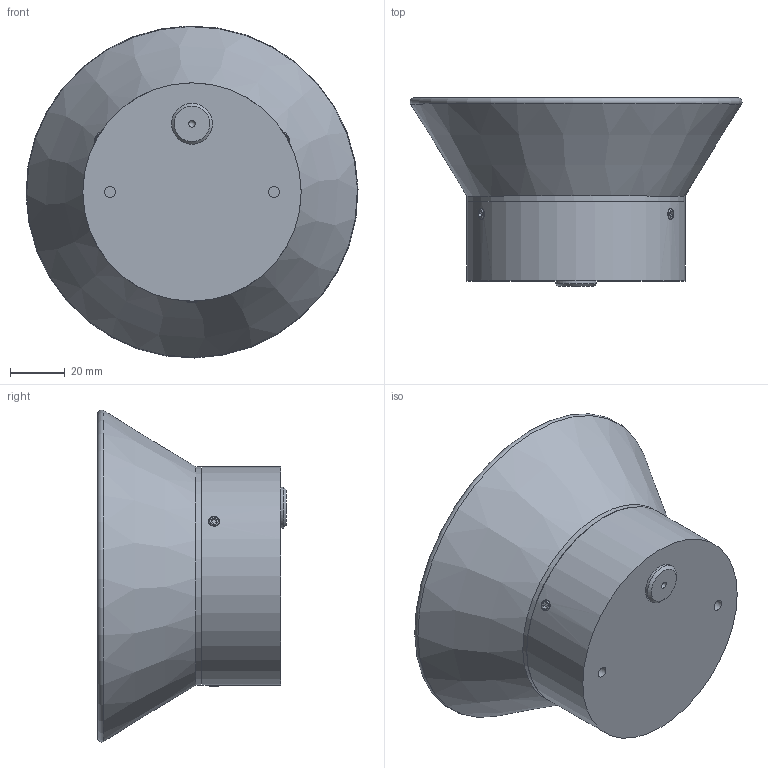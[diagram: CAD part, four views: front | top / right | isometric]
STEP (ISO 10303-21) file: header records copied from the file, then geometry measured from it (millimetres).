
FILE_DESCRIPTION (( 'STEP AP214' ), '1' );
FILE_NAME ('YES-A3993090.STEP', '2026-01-15T11:00:26', ( '' ), ( '' ), 'SwSTEP 2.0', 'SolidWorks 2025', '' );
FILE_SCHEMA (( 'AUTOMOTIVE_DESIGN' ));
Length unit declared in the file: millimetre
Products named in the file (8): YES-A3993090; Tornillo M4x20^Ensamblaje YES; Pieza7^Ensamblaje YES; Base^Ensamblaje YES; WUERTH 02544  4 headless screw DIN 915 M4x4 45H BLK; Disipador^Ensamblaje YES; Pad Térmico^Ensamblaje YES; Difusor^Ensamblaje YES
Assembly tree (9 placements, depth 2):
  YES-A3993090
    Difusor^Ensamblaje YES
    Base^Ensamblaje YES
    Disipador^Ensamblaje YES
    Pad Térmico^Ensamblaje YES
    WUERTH 02544  4 headless screw DIN 915 M4x4 45H BLK  x3
    Tornillo M4x20^Ensamblaje YES
    Pieza7^Ensamblaje YES
Bounding box: 121.63 x 69.1 x 121.63 mm (x, y, z)
Volume: 218881.5 mm3; surface area: 86191.9 mm2
Topology: 9 solids, 10 shells, 138 faces, 281 edges, 178 vertices
Faces by surface type: plane 60, cylinder 51, cone 21, torus 4, sphere 2
Full cylindrical faces by diameter (mm): 3 x2, 3.3 x2, 3.9 x1, 4 x9, 9.8 x1, 10 x2, 12 x2, 15 x1, 22 x4, 64 x1, 69 x1, 70.5 x1, 74 x1, 74.5 x1, 80 x2, 107 x1
Entity records: 3283 total; most frequent: CARTESIAN_POINT 794, DIRECTION 524, ORIENTED_EDGE 334, AXIS2_PLACEMENT_3D 241, EDGE_LOOP 198, EDGE_CURVE 167, FACE_OUTER_BOUND 146, VERTEX_POINT 135
